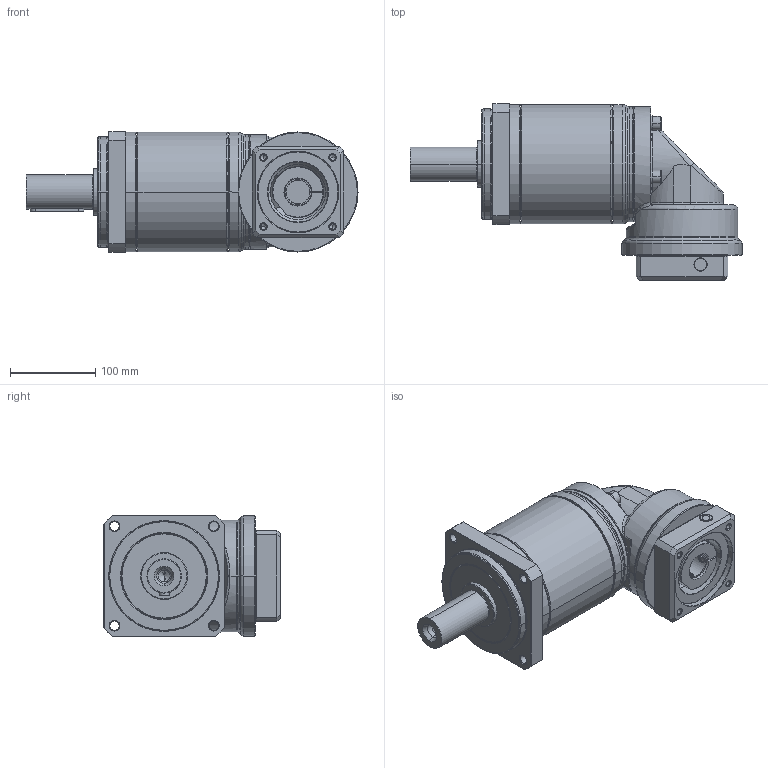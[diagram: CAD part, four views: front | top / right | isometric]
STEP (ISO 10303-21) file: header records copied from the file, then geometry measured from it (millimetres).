
FILE_DESCRIPTION((''),'2;1');
FILE_NAME('PA2R-142_2ST_28-P0411600101_ASM','2016-05-17T',('d01943'),(''),'PRO/ENGINEER BY PARAMETRIC TECHNOLOGY CORPORATION, 2008410','PRO/ENGINEER BY PARAMETRIC TECHNOLOGY CORPORATION, 2008410','');
FILE_SCHEMA(('CONFIG_CONTROL_DESIGN'));
Length unit declared in the file: millimetre
Products named in the file (12): P1327510001; P0251500001; P0350500601; P1349500001; P1017500001; P0713502001; P0503600008; P1350500201; P0411600101; P1702500001; 2111BA10040; PA2R-142_2ST_28-P0411600101_ASM
Assembly tree (14 placements, depth 2):
  PA2R-142_2ST_28-P0411600101_ASM
    P1327510001
    P0251500001
    P0350500601
    P1349500001
    P1017500001
    P0713502001
    P0503600008
    P1350500201
    P0411600101
    P1702500001
    2111BA10040  x4
Bounding box: 390 x 207.5 x 142 mm (x, y, z)
Volume: 2820805.8 mm3; surface area: 486778.8 mm2
Topology: 14 solids, 14 shells, 735 faces, 1619 edges, 935 vertices
Faces by surface type: cylinder 218, cone 212, plane 167, torus 106, bspline 32
Entity records: 23314 total; most frequent: CARTESIAN_POINT 9069, DIRECTION 3147, ORIENTED_EDGE 2766, EDGE_CURVE 1383, AXIS2_PLACEMENT_3D 1326, VERTEX_POINT 815, EDGE_LOOP 716, CIRCLE 696
